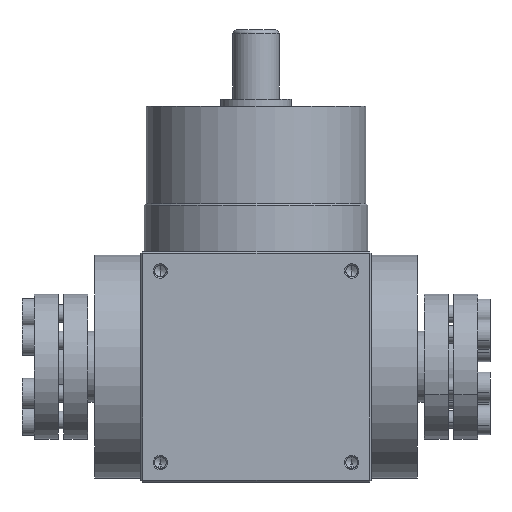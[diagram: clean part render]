
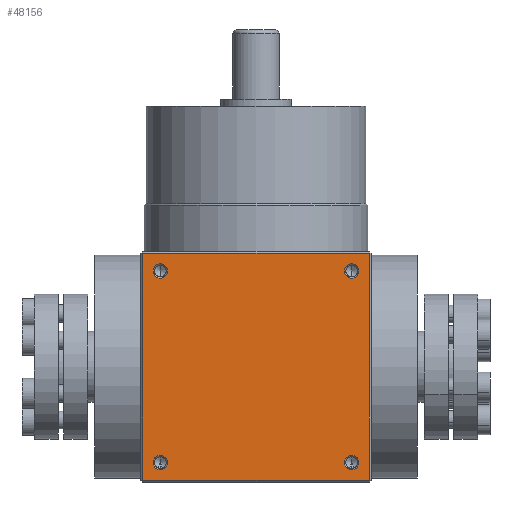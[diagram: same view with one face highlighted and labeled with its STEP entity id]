
A CAD part, front view. The second image highlights one B-rep face of the part: STEP entity #48156.
In plain terms, the highlighted planar face has unit normal (0, -1, 0).
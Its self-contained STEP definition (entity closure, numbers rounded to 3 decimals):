
#768 = DIRECTION ( 'NONE',  ( 0., -1., 0. ) ) ;
#829 = DIRECTION ( 'NONE',  ( 0., 0., -1. ) ) ;
#904 = CARTESIAN_POINT ( 'NONE',  ( -32.5, -32.5, 0.5 ) ) ;
#1303 = PLANE ( 'NONE',  #13552 ) ;
#1449 = ORIENTED_EDGE ( 'NONE', *, *, #18104, .F. ) ;
#1506 = VERTEX_POINT ( 'NONE', #13078 ) ;
#1544 = VERTEX_POINT ( 'NONE', #32205 ) ;
#2261 = VECTOR ( 'NONE', #31080, 1000. ) ;
#2890 = EDGE_CURVE ( 'NONE', #15784, #20317, #48160, .T. ) ;
#3171 = ORIENTED_EDGE ( 'NONE', *, *, #20303, .F. ) ;
#3305 = CARTESIAN_POINT ( 'NONE',  ( -32., -32.5, 65. ) ) ;
#3370 = AXIS2_PLACEMENT_3D ( 'NONE', #45996, #23384, #829 ) ;
#4212 = CARTESIAN_POINT ( 'NONE',  ( -27., -32.5, 61.525 ) ) ;
#4854 = CARTESIAN_POINT ( 'NONE',  ( -32.5, -32.5, 64.5 ) ) ;
#5226 = CIRCLE ( 'NONE', #20978, 2.025 ) ;
#5680 = CARTESIAN_POINT ( 'NONE',  ( 27., -32.5, 59.5 ) ) ;
#5759 = ORIENTED_EDGE ( 'NONE', *, *, #2890, .F. ) ;
#6420 = ORIENTED_EDGE ( 'NONE', *, *, #26476, .F. ) ;
#7011 = LINE ( 'NONE', #4854, #15862 ) ;
#8399 = ORIENTED_EDGE ( 'NONE', *, *, #26173, .F. ) ;
#8470 = VECTOR ( 'NONE', #29543, 1000. ) ;
#9235 = EDGE_CURVE ( 'NONE', #1544, #11174, #39019, .T. ) ;
#9478 = DIRECTION ( 'NONE',  ( 0., 0., -1. ) ) ;
#9621 = CARTESIAN_POINT ( 'NONE',  ( -32., -32.5, 0.5 ) ) ;
#9972 = CARTESIAN_POINT ( 'NONE',  ( 27., -32.5, 59.5 ) ) ;
#10676 = EDGE_CURVE ( 'NONE', #32150, #43946, #13489, .T. ) ;
#11174 = VERTEX_POINT ( 'NONE', #30031 ) ;
#11209 = CIRCLE ( 'NONE', #3370, 2.025 ) ;
#11538 = VERTEX_POINT ( 'NONE', #37769 ) ;
#12003 = EDGE_LOOP ( 'NONE', ( #1449, #32476, #41404, #8399 ) ) ;
#12429 = DIRECTION ( 'NONE',  ( 1., 0., 0. ) ) ;
#12659 = CARTESIAN_POINT ( 'NONE',  ( -32.5, -32.5, 65. ) ) ;
#13059 = FACE_OUTER_BOUND ( 'NONE', #12003, .T. ) ;
#13078 = CARTESIAN_POINT ( 'NONE',  ( -27., -32.5, 57.475 ) ) ;
#13489 = LINE ( 'NONE', #904, #2261 ) ;
#13552 = AXIS2_PLACEMENT_3D ( 'NONE', #12659, #42839, #20247 ) ;
#13770 = DIRECTION ( 'NONE',  ( 0., 0., -1. ) ) ;
#14229 = FACE_BOUND ( 'NONE', #18163, .T. ) ;
#14311 = DIRECTION ( 'NONE',  ( 0., 0., -1. ) ) ;
#15658 = CARTESIAN_POINT ( 'NONE',  ( -27., -32.5, 5.5 ) ) ;
#15784 = VERTEX_POINT ( 'NONE', #27747 ) ;
#15862 = VECTOR ( 'NONE', #12429, 1000. ) ;
#17657 = AXIS2_PLACEMENT_3D ( 'NONE', #41056, #18457, #44833 ) ;
#18104 = EDGE_CURVE ( 'NONE', #38558, #34621, #7011, .T. ) ;
#18163 = EDGE_LOOP ( 'NONE', ( #43644, #5759 ) ) ;
#18457 = DIRECTION ( 'NONE',  ( 0., -1., 0. ) ) ;
#19171 = EDGE_CURVE ( 'NONE', #44519, #11538, #5226, .T. ) ;
#19340 = DIRECTION ( 'NONE',  ( 0., -1., 0. ) ) ;
#19386 = VERTEX_POINT ( 'NONE', #4212 ) ;
#19460 = DIRECTION ( 'NONE',  ( 0., 0., -1. ) ) ;
#19615 = DIRECTION ( 'NONE',  ( 0., -1., 0. ) ) ;
#20247 = DIRECTION ( 'NONE',  ( 0., 0., 1. ) ) ;
#20303 = EDGE_CURVE ( 'NONE', #1506, #19386, #32863, .T. ) ;
#20317 = VERTEX_POINT ( 'NONE', #23115 ) ;
#20768 = ORIENTED_EDGE ( 'NONE', *, *, #9235, .F. ) ;
#20820 = EDGE_LOOP ( 'NONE', ( #20768, #23373 ) ) ;
#20978 = AXIS2_PLACEMENT_3D ( 'NONE', #5680, #32073, #9478 ) ;
#21126 = CIRCLE ( 'NONE', #39280, 2.025 ) ;
#21725 = CARTESIAN_POINT ( 'NONE',  ( 32., -32.5, 65. ) ) ;
#21959 = AXIS2_PLACEMENT_3D ( 'NONE', #15658, #42062, #19460 ) ;
#23075 = FACE_BOUND ( 'NONE', #48728, .T. ) ;
#23115 = CARTESIAN_POINT ( 'NONE',  ( 27., -32.5, 3.475 ) ) ;
#23326 = CARTESIAN_POINT ( 'NONE',  ( 27., -32.5, 5.5 ) ) ;
#23373 = ORIENTED_EDGE ( 'NONE', *, *, #31866, .F. ) ;
#23384 = DIRECTION ( 'NONE',  ( 0., -1., 0. ) ) ;
#23829 = EDGE_LOOP ( 'NONE', ( #6420, #41217 ) ) ;
#24436 = ORIENTED_EDGE ( 'NONE', *, *, #38151, .F. ) ;
#26173 = EDGE_CURVE ( 'NONE', #34621, #32150, #39767, .T. ) ;
#26476 = EDGE_CURVE ( 'NONE', #11538, #44519, #32687, .T. ) ;
#27134 = DIRECTION ( 'NONE',  ( 0., 0., -1. ) ) ;
#27747 = CARTESIAN_POINT ( 'NONE',  ( 27., -32.5, 7.525 ) ) ;
#29543 = DIRECTION ( 'NONE',  ( 0., 0., 1. ) ) ;
#29735 = VECTOR ( 'NONE', #14311, 1000. ) ;
#29744 = CIRCLE ( 'NONE', #17657, 2.025 ) ;
#30031 = CARTESIAN_POINT ( 'NONE',  ( -27., -32.5, 7.525 ) ) ;
#30851 = EDGE_CURVE ( 'NONE', #20317, #15784, #11209, .T. ) ;
#31080 = DIRECTION ( 'NONE',  ( -1., 0., 0. ) ) ;
#31866 = EDGE_CURVE ( 'NONE', #11174, #1544, #21126, .T. ) ;
#32073 = DIRECTION ( 'NONE',  ( 0., -1., 0. ) ) ;
#32150 = VERTEX_POINT ( 'NONE', #47919 ) ;
#32205 = CARTESIAN_POINT ( 'NONE',  ( -27., -32.5, 3.475 ) ) ;
#32476 = ORIENTED_EDGE ( 'NONE', *, *, #35137, .F. ) ;
#32659 = AXIS2_PLACEMENT_3D ( 'NONE', #9972, #36392, #13770 ) ;
#32687 = CIRCLE ( 'NONE', #32659, 2.025 ) ;
#32863 = CIRCLE ( 'NONE', #39993, 2.025 ) ;
#33143 = FACE_BOUND ( 'NONE', #20820, .T. ) ;
#34145 = CARTESIAN_POINT ( 'NONE',  ( 27., -32.5, 61.525 ) ) ;
#34621 = VERTEX_POINT ( 'NONE', #40969 ) ;
#35137 = EDGE_CURVE ( 'NONE', #43946, #38558, #48565, .T. ) ;
#36392 = DIRECTION ( 'NONE',  ( 0., -1., 0. ) ) ;
#37769 = CARTESIAN_POINT ( 'NONE',  ( 27., -32.5, 57.475 ) ) ;
#38151 = EDGE_CURVE ( 'NONE', #19386, #1506, #29744, .T. ) ;
#38558 = VERTEX_POINT ( 'NONE', #46446 ) ;
#39019 = CIRCLE ( 'NONE', #21959, 2.025 ) ;
#39280 = AXIS2_PLACEMENT_3D ( 'NONE', #42208, #19615, #45993 ) ;
#39767 = LINE ( 'NONE', #21725, #29735 ) ;
#39993 = AXIS2_PLACEMENT_3D ( 'NONE', #41955, #19340, #45710 ) ;
#40127 = AXIS2_PLACEMENT_3D ( 'NONE', #23326, #768, #27134 ) ;
#40969 = CARTESIAN_POINT ( 'NONE',  ( 32., -32.5, 64.5 ) ) ;
#41056 = CARTESIAN_POINT ( 'NONE',  ( -27., -32.5, 59.5 ) ) ;
#41217 = ORIENTED_EDGE ( 'NONE', *, *, #19171, .F. ) ;
#41404 = ORIENTED_EDGE ( 'NONE', *, *, #10676, .F. ) ;
#41955 = CARTESIAN_POINT ( 'NONE',  ( -27., -32.5, 59.5 ) ) ;
#42062 = DIRECTION ( 'NONE',  ( 0., -1., 0. ) ) ;
#42208 = CARTESIAN_POINT ( 'NONE',  ( -27., -32.5, 5.5 ) ) ;
#42839 = DIRECTION ( 'NONE',  ( 0., 1., 0. ) ) ;
#43153 = FACE_BOUND ( 'NONE', #23829, .T. ) ;
#43644 = ORIENTED_EDGE ( 'NONE', *, *, #30851, .F. ) ;
#43946 = VERTEX_POINT ( 'NONE', #9621 ) ;
#44519 = VERTEX_POINT ( 'NONE', #34145 ) ;
#44833 = DIRECTION ( 'NONE',  ( 0., 0., -1. ) ) ;
#45710 = DIRECTION ( 'NONE',  ( 0., 0., -1. ) ) ;
#45993 = DIRECTION ( 'NONE',  ( 0., 0., -1. ) ) ;
#45996 = CARTESIAN_POINT ( 'NONE',  ( 27., -32.5, 5.5 ) ) ;
#46446 = CARTESIAN_POINT ( 'NONE',  ( -32., -32.5, 64.5 ) ) ;
#47919 = CARTESIAN_POINT ( 'NONE',  ( 32., -32.5, 0.5 ) ) ;
#48156 = ADVANCED_FACE ( 'NONE', ( #23075, #43153, #14229, #33143, #13059 ), #1303, .F. ) ;
#48160 = CIRCLE ( 'NONE', #40127, 2.025 ) ;
#48565 = LINE ( 'NONE', #3305, #8470 ) ;
#48728 = EDGE_LOOP ( 'NONE', ( #3171, #24436 ) ) ;
